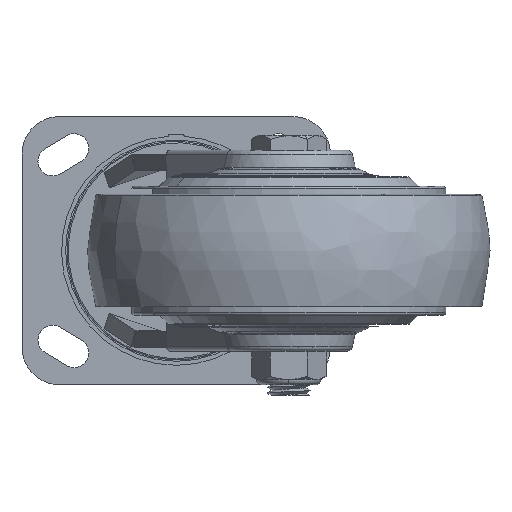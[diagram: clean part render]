
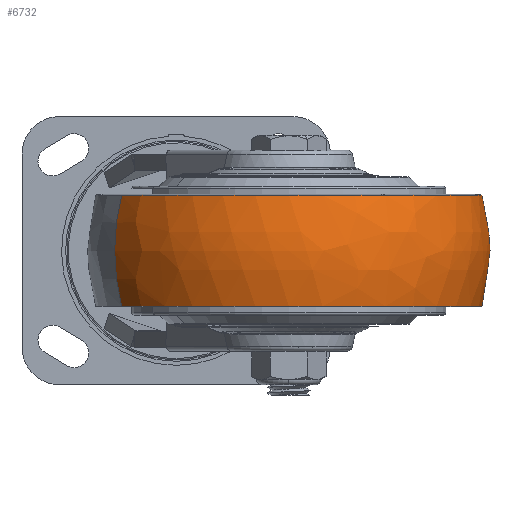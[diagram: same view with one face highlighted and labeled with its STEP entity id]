
A CAD part, front view. The second image highlights one B-rep face of the part: STEP entity #6732.
In plain terms, the highlighted free-form (B-spline) face has degree [3, 3] with [7, 4] control points.
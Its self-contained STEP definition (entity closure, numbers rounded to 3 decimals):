
#5940=CARTESIAN_POINT('',(42.,-116.,20.731));
#5941=DIRECTION('',(0.,0.,-1.));
#5942=DIRECTION('',(0.866,0.5,0.));
#5943=AXIS2_PLACEMENT_3D('',#5940,#5941,#5942);
#5968=CARTESIAN_POINT('',(42.,-116.,20.731));
#5969=DIRECTION('',(0.,0.,-1.));
#5970=DIRECTION('',(0.5,-0.866,0.));
#5971=AXIS2_PLACEMENT_3D('',#5968,#5969,#5970);
#5973=CARTESIAN_POINT('',(43.622,-115.064,0.));
#5974=DIRECTION('',(-0.5,0.866,0.));
#5975=DIRECTION('',(0.83,0.479,0.283));
#5976=AXIS2_PLACEMENT_3D('',#5973,#5974,#5975);
#5978=CARTESIAN_POINT('',(40.378,-116.936,0.));
#5979=DIRECTION('',(0.5,-0.866,0.));
#5980=DIRECTION('',(-0.83,-0.479,0.283));
#5981=AXIS2_PLACEMENT_3D('',#5978,#5979,#5980);
#5988=CARTESIAN_POINT('',(42.,-116.,-20.731));
#5989=DIRECTION('',(0.,0.,-1.));
#5990=DIRECTION('',(0.866,0.5,0.));
#5991=AXIS2_PLACEMENT_3D('',#5988,#5989,#5990);
#5998=CARTESIAN_POINT('',(42.,-116.,-20.731));
#5999=DIRECTION('',(0.,0.,-1.));
#6000=DIRECTION('',(0.5,-0.866,0.));
#6001=AXIS2_PLACEMENT_3D('',#5998,#5999,#6000);
#6436=CARTESIAN_POINT('',(104.354,-80.,20.731));
#6438=VERTEX_POINT('',#6436);
#6439=CARTESIAN_POINT('',(78.,-178.354,20.731));
#6440=VERTEX_POINT('',#6439);
#6442=CARTESIAN_POINT('',(104.354,-80.,
-20.731));
#6444=VERTEX_POINT('',#6442);
#6445=CARTESIAN_POINT('',(78.,-178.354,-20.731));
#6446=VERTEX_POINT('',#6445);
#6447=CARTESIAN_POINT('',(-20.354,-152.,
20.731));
#6448=VERTEX_POINT('',#6447);
#6449=CARTESIAN_POINT('',(-20.354,-152.,
-20.731));
#6450=VERTEX_POINT('',#6449);
#6693=CARTESIAN_POINT('',(101.768,-76.29,21.536));
#6694=CARTESIAN_POINT('',(105.397,-73.879,7.397));
#6695=CARTESIAN_POINT('',(105.397,-73.879,
-7.397));
#6696=CARTESIAN_POINT('',(101.768,-76.29,
-21.536));
#6697=CARTESIAN_POINT('',(126.205,-113.071,21.536));
#6698=CARTESIAN_POINT('',(131.318,-112.894,7.397));
#6699=CARTESIAN_POINT('',(131.318,-112.894,
-7.397));
#6700=CARTESIAN_POINT('',(126.205,-113.071,
-21.536));
#6701=CARTESIAN_POINT('',(116.121,-156.064,21.536));
#6702=CARTESIAN_POINT('',(120.622,-158.496,7.397));
#6703=CARTESIAN_POINT('',(120.622,-158.496,
-7.397));
#6704=CARTESIAN_POINT('',(116.121,-156.064,
-21.536));
#6705=CARTESIAN_POINT('',(77.879,-178.143,21.536));
#6706=CARTESIAN_POINT('',(80.057,-181.917,7.397));
#6707=CARTESIAN_POINT('',(80.057,-181.917,
-7.397));
#6708=CARTESIAN_POINT('',(77.879,-178.143,
-21.536));
#6709=CARTESIAN_POINT('',(39.636,-200.223,21.536));
#6710=CARTESIAN_POINT('',(39.492,-205.337,7.397));
#6711=CARTESIAN_POINT('',(39.492,-205.337,
-7.397));
#6712=CARTESIAN_POINT('',(39.636,-200.223,
-21.536));
#6713=CARTESIAN_POINT('',(-2.639,-187.46,
21.536));
#6714=CARTESIAN_POINT('',(-5.349,-191.799,
7.397));
#6715=CARTESIAN_POINT('',(-5.349,-191.799,
-7.397));
#6716=CARTESIAN_POINT('',(-2.639,-187.46,
-21.536));
#6717=CARTESIAN_POINT('',(-22.274,-147.906,
21.536));
#6718=CARTESIAN_POINT('',(-26.176,-149.843,
7.397));
#6719=CARTESIAN_POINT('',(-26.176,-149.843,
-7.397));
#6720=CARTESIAN_POINT('',(-22.274,-147.906,
-21.536));
#6721=(BOUNDED_SURFACE()B_SPLINE_SURFACE(3,3,((#6693,#6694,#6695,#6696),(#6697,
#6698,#6699,#6700),(#6701,#6702,#6703,#6704),(#6705,#6706,#6707,#6708),(#6709,
#6710,#6711,#6712),(#6713,#6714,#6715,#6716),(#6717,#6718,#6719,#6720)),
.UNSPECIFIED.,.F.,.F.,.F.)B_SPLINE_SURFACE_WITH_KNOTS((4,3,4),(4,4),(0.,1.,
2.),(0.,1.),.UNSPECIFIED.)GEOMETRIC_REPRESENTATION_ITEM()RATIONAL_B_SPLINE_SURFACE(((1.214,1.178,1.178,1.214),(
0.959,0.93,0.93,0.959),(
0.959,0.93,0.93,0.959),(
1.214,1.178,1.178,1.214),(
0.959,0.93,0.93,0.959),(
0.959,0.93,0.93,0.959),(
1.214,1.178,1.178,1.214)))REPRESENTATION_ITEM('')SURFACE());
#6722=ORIENTED_EDGE('',*,*,#6605,.F.);
#6723=ORIENTED_EDGE('',*,*,#6660,.T.);
#6725=ORIENTED_EDGE('',*,*,#6724,.T.);
#6727=ORIENTED_EDGE('',*,*,#6726,.T.);
#6728=ORIENTED_EDGE('',*,*,#6654,.F.);
#6729=ORIENTED_EDGE('',*,*,#6681,.F.);
#6730=EDGE_LOOP('',(#6722,#6723,#6725,#6727,#6728,#6729));
#6731=FACE_OUTER_BOUND('',#6730,.F.);
#5944=CIRCLE('',#5943,72.);
#5972=CIRCLE('',#5971,72.);
#5977=CIRCLE('',#5976,73.127);
#5982=CIRCLE('',#5981,73.127);
#5992=CIRCLE('',#5991,72.);
#6002=CIRCLE('',#6001,72.);
#6605=EDGE_CURVE('',#6438,#6440,#5944,.T.);
#6654=EDGE_CURVE('',#6448,#6450,#5982,.T.);
#6660=EDGE_CURVE('',#6438,#6444,#5977,.T.);
#6681=EDGE_CURVE('',#6440,#6448,#5972,.T.);
#6724=EDGE_CURVE('',#6444,#6446,#5992,.T.);
#6726=EDGE_CURVE('',#6446,#6450,#6002,.T.);
#6732=ADVANCED_FACE('',(#6731),#6721,.T.);
